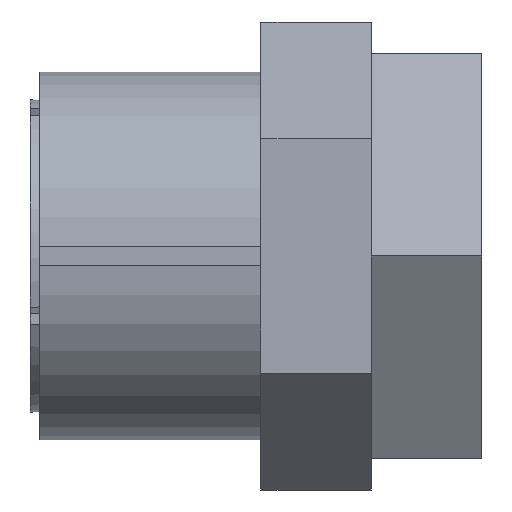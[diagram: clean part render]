
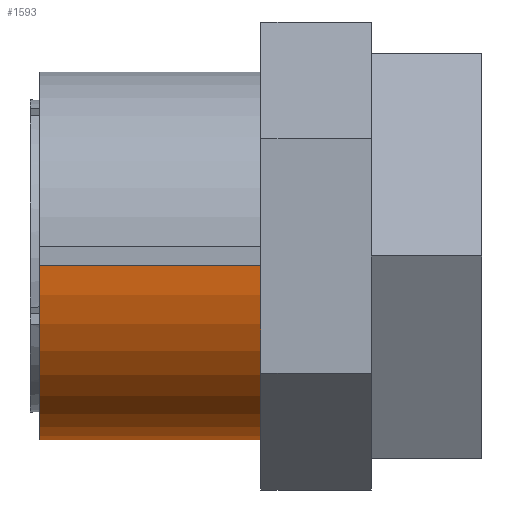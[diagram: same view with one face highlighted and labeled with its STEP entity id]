
A CAD part, front view. The second image highlights one B-rep face of the part: STEP entity #1593.
In plain terms, the highlighted cylindrical face has radius 10 mm (diameter 20 mm), a partial arc.
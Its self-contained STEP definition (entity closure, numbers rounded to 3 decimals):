
#48 = AXIS2_PLACEMENT_3D ( 'NONE', #1439, #1446, #1447 ) ;
#64 = EDGE_CURVE ( 'NONE', #448, #441, #2102, .T. ) ;
#67 = EDGE_CURVE ( 'NONE', #1488, #448, #2099, .T. ) ;
#68 = EDGE_CURVE ( 'NONE', #1488, #1548, #2095, .T. ) ;
#69 = EDGE_CURVE ( 'NONE', #441, #1548, #2096, .T. ) ;
#278 = AXIS2_PLACEMENT_3D ( 'NONE', #1436, #1535, #1483 ) ;
#318 = AXIS2_PLACEMENT_3D ( 'NONE', #868, #871, #870 ) ;
#441 = VERTEX_POINT ( 'NONE', #708 ) ;
#448 = VERTEX_POINT ( 'NONE', #715 ) ;
#708 = CARTESIAN_POINT ( 'NONE',  ( 12.5, -9.987, -0.5 ) ) ;
#715 = CARTESIAN_POINT ( 'NONE',  ( 12.5, -0.5, -9.987 ) ) ;
#782 = CARTESIAN_POINT ( 'NONE',  ( 0.5, -0.5, -9.987 ) ) ;
#789 = CARTESIAN_POINT ( 'NONE',  ( 0.5, -9.987, -0.5 ) ) ;
#868 = CARTESIAN_POINT ( 'NONE',  ( 0., 0., 0. ) ) ;
#870 = DIRECTION ( 'NONE',  ( 0., 0., 1. ) ) ;
#871 = DIRECTION ( 'NONE',  ( -1., 0., 0. ) ) ;
#1191 = ORIENTED_EDGE ( 'NONE', *, *, #69, .T. ) ;
#1202 = ORIENTED_EDGE ( 'NONE', *, *, #68, .F. ) ;
#1215 = ORIENTED_EDGE ( 'NONE', *, *, #64, .T. ) ;
#1216 = ORIENTED_EDGE ( 'NONE', *, *, #67, .T. ) ;
#1272 = DIRECTION ( 'NONE',  ( -1., 0., 0. ) ) ;
#1360 = CARTESIAN_POINT ( 'NONE',  ( 0., -0.5, -9.987 ) ) ;
#1434 = CARTESIAN_POINT ( 'NONE',  ( 0., -9.987, -0.5 ) ) ;
#1436 = CARTESIAN_POINT ( 'NONE',  ( 0.5, 0., 0. ) ) ;
#1439 = CARTESIAN_POINT ( 'NONE',  ( 12.5, 0., 0. ) ) ;
#1446 = DIRECTION ( 'NONE',  ( -1., 0., 0. ) ) ;
#1447 = DIRECTION ( 'NONE',  ( 0., 0., 1. ) ) ;
#1483 = DIRECTION ( 'NONE',  ( 0., 0., 1. ) ) ;
#1488 = VERTEX_POINT ( 'NONE', #782 ) ;
#1535 = DIRECTION ( 'NONE',  ( -1., 0., 0. ) ) ;
#1538 = DIRECTION ( 'NONE',  ( 1., 0., 0. ) ) ;
#1548 = VERTEX_POINT ( 'NONE', #789 ) ;
#1593 = ADVANCED_FACE ( 'NONE', ( #1766 ), #1760, .T. ) ;
#1760 = CYLINDRICAL_SURFACE ( 'NONE', #318, 10. ) ;
#1766 = FACE_OUTER_BOUND ( 'NONE', #2408, .T. ) ;
#2095 = CIRCLE ( 'NONE', #278, 10. ) ;
#2096 = LINE ( 'NONE', #1434, #2105 ) ;
#2099 = LINE ( 'NONE', #1360, #2106 ) ;
#2102 = CIRCLE ( 'NONE', #48, 10. ) ;
#2105 = VECTOR ( 'NONE', #1272, 1000. ) ;
#2106 = VECTOR ( 'NONE', #1538, 1000. ) ;
#2408 = EDGE_LOOP ( 'NONE', ( #1202, #1216, #1215, #1191 ) ) ;
